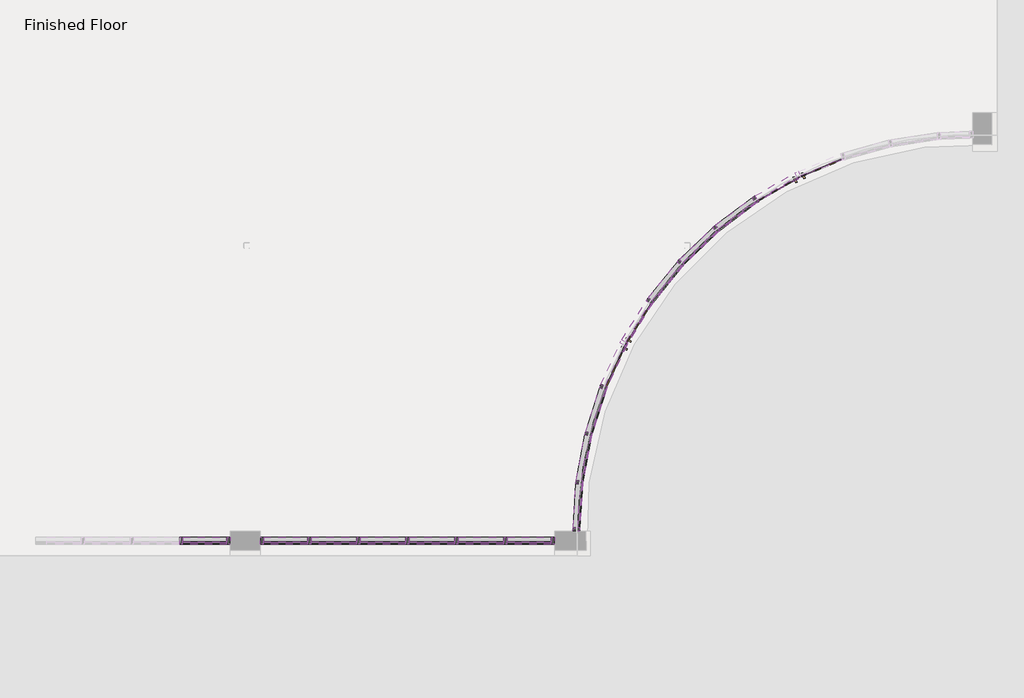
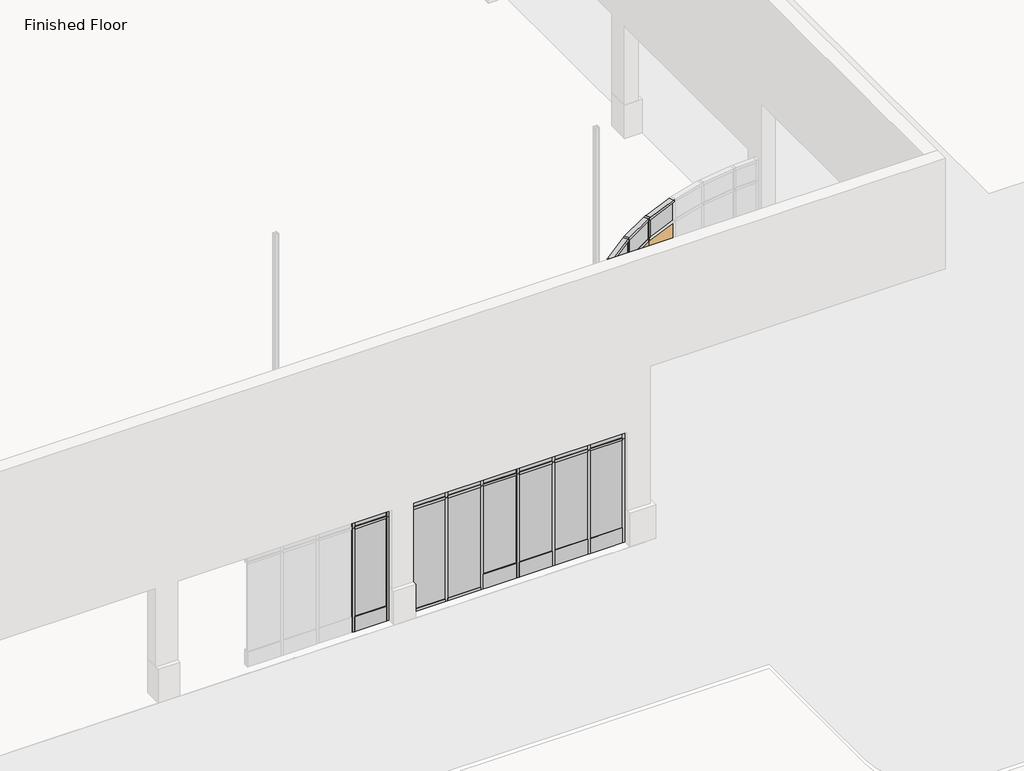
# One storey, part 3 of 7: 81 members, 30 plates, 4 doors.
"""IFC4 building model written with IfcOpenShell, lengths in millimetres."""

from ifc_helpers import new_model, si_unit, origin, place, context, project, spatial, transform, mapped, element, save
from components import curtain_wall_sgl_glass_curtain_wall_sgl_glass_1c17b042, curtain_wall_sgl_glass_curtain_wall_sgl_glass_0d6a1b13, member_d2e7e466, member_7db1855a, member_a397ac22, member_d702d02f, member_57980dff, member_b5e65c95, member_069002c8, member_a75f139a, member_8a16213d, member_a608d019, member_830eb86c, member_c5eeba41, member_bfce15ef, member_c839a1ff, member_1fc1b455, member_c17f1be2, member_ad567e07, member_6ad7a984, member_7c546d85, member_6e77e263, rectangular_mullion_tall_mullion_dc5872ae, rectangular_mullion_tall_mullion_643de06f, system_panel_glazed_00e77426, system_panel_glazed_d5ca8191, system_panel_glazed_a343adf7, system_panel_glazed_9d8b6f53, system_panel_glazed_2d85ec54, system_panel_glazed_0eb5479c, system_panel_glazed_0c1d7574, system_panel_glazed_f449fc8c, system_panel_glazed_61942ae4, system_panel_glazed_9254fb36

model = new_model("IFC4")

# Units and contexts
model_context = context("Model", 3, world=origin())
ifc_project = project(units=[si_unit("LENGTHUNIT", "METRE", prefix="MILLI")], contexts=[model_context])

# Site, building, storey
site = spatial("IfcSite", under=ifc_project)
building = spatial("IfcBuilding", under=site)
storey = spatial("IfcBuildingStorey", under=building, Name="Finished Floor", Elevation=0.0)

# Doors
placement = place(None, origin())
curtain_wall_sgl_glass_curtain_wall_sgl_glass_shape = curtain_wall_sgl_glass_curtain_wall_sgl_glass_1c17b042(model_context)
element("IfcDoor", 1, ObjectType="Curtain Wall Sgl Glass : Curtain Wall Sgl Glass", at=placement, inside=storey, context=model_context, shape_type="MappedRepresentation", body=[
    mapped(curtain_wall_sgl_glass_curtain_wall_sgl_glass_shape, transform((12205.5770222, -10167.6142626, 0.0), x_axis=(0.5285884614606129, 0.8488782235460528, 0.0), y_axis=(-0.8488782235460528, 0.5285884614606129, 0.0), z_axis=(0.0, 0.0, 1.0))),
])
element("IfcDoor", 2, ObjectType="Curtain Wall Sgl Glass : Curtain Wall Sgl Glass", at=placement, inside=storey, context=model_context, shape_type="MappedRepresentation", body=[
    mapped(curtain_wall_sgl_glass_curtain_wall_sgl_glass_shape, transform((15623.3358798, -7250.0903056, 0.0), x_axis=(0.9229809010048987, 0.38484575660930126, 0.0), y_axis=(-0.38484575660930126, 0.9229809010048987, 0.0), z_axis=(0.0, 0.0, 1.0))),
])
curtain_wall_sgl_glass_curtain_wall_sgl_glass_2_shape = curtain_wall_sgl_glass_curtain_wall_sgl_glass_0d6a1b13(model_context)
element("IfcDoor", 3, ObjectType="Curtain Wall Sgl Glass : Curtain Wall Sgl Glass", at=placement, inside=storey, context=model_context, shape_type="MappedRepresentation", body=[
    mapped(curtain_wall_sgl_glass_curtain_wall_sgl_glass_2_shape, transform((11787.050244, -10942.8089583, 0.0), x_axis=(-0.4197529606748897, -0.9076383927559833, 0.0), y_axis=(0.9076383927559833, -0.4197529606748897, 0.0), z_axis=(0.0, 0.0, 1.0))),
])
element("IfcDoor", 4, ObjectType="Curtain Wall Sgl Glass : Curtain Wall Sgl Glass", at=placement, inside=storey, context=model_context, shape_type="MappedRepresentation", body=[
    mapped(curtain_wall_sgl_glass_curtain_wall_sgl_glass_2_shape, transform((14832.7491415, -7638.7599462, 0.0), x_axis=(-0.8684126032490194, -0.4958422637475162, 0.0), y_axis=(0.4958422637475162, -0.8684126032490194, 0.0), z_axis=(0.0, 0.0, 1.0))),
])

# Members
member_shape = member_d2e7e466(model_context)
element("IfcMember", 5, ObjectType="Rectangular Mullion : 2.5\" x 5\" rectangular", at=placement, inside=storey, context=model_context, shape_type="MappedRepresentation", body=[
    mapped(member_shape, transform((8881.2647279, -14230.7188057, 3048.0), x_axis=(0.0, 0.0, 1.0), y_axis=(0.0, 1.0, 0.0), z_axis=(-1.0, 0.0, 0.0))),
])
element("IfcMember", 6, ObjectType="Rectangular Mullion : 2.5\" x 5\" rectangular", at=placement, inside=storey, context=model_context, shape_type="MappedRepresentation", body=[
    mapped(member_shape, transform((7966.8647279, -14230.7188057, 3048.0), x_axis=(0.0, 0.0, 1.0), y_axis=(0.0, 1.0, 0.0), z_axis=(-1.0, 0.0, 0.0))),
])
element("IfcMember", 7, ObjectType="Rectangular Mullion : 2.5\" x 5\" rectangular", at=placement, inside=storey, context=model_context, shape_type="MappedRepresentation", body=[
    mapped(member_shape, transform((7052.4647279, -14230.7188057, 3048.0), x_axis=(0.0, 0.0, 1.0), y_axis=(0.0, 1.0, 0.0), z_axis=(-1.0, 0.0, 0.0))),
])
element("IfcMember", 8, ObjectType="Rectangular Mullion : 2.5\" x 5\" rectangular", at=placement, inside=storey, context=model_context, shape_type="MappedRepresentation", body=[
    mapped(member_shape, transform((6138.0647279, -14230.7188057, 3048.0), x_axis=(0.0, 0.0, 1.0), y_axis=(0.0, 1.0, 0.0), z_axis=(-1.0, 0.0, 0.0))),
])
member_2_shape = member_7db1855a(model_context)
element("IfcMember", 9, ObjectType="Rectangular Mullion : 2.5\" x 5\" rectangular", at=placement, inside=storey, context=model_context, shape_type="MappedRepresentation", body=[
    mapped(member_2_shape, transform((8881.2647279, -14230.7188057, 2813.05), x_axis=(0.0, 0.0, 1.0), y_axis=(0.0, 1.0, 0.0), z_axis=(-1.0, 0.0, 0.0))),
])
element("IfcMember", 10, ObjectType="Rectangular Mullion : 2.5\" x 5\" rectangular", at=placement, inside=storey, context=model_context, shape_type="MappedRepresentation", body=[
    mapped(member_2_shape, transform((7966.8647279, -14230.7188057, 2813.05), x_axis=(0.0, 0.0, 1.0), y_axis=(0.0, 1.0, 0.0), z_axis=(-1.0, 0.0, 0.0))),
])
element("IfcMember", 11, ObjectType="Rectangular Mullion : 2.5\" x 5\" rectangular", at=placement, inside=storey, context=model_context, shape_type="MappedRepresentation", body=[
    mapped(member_2_shape, transform((7052.4647279, -14230.7188057, 2813.05), x_axis=(0.0, 0.0, 1.0), y_axis=(0.0, 1.0, 0.0), z_axis=(-1.0, 0.0, 0.0))),
])
element("IfcMember", 12, ObjectType="Rectangular Mullion : 2.5\" x 5\" rectangular", at=placement, inside=storey, context=model_context, shape_type="MappedRepresentation", body=[
    mapped(member_2_shape, transform((6138.0647279, -14230.7188057, 2813.05), x_axis=(0.0, 0.0, 1.0), y_axis=(0.0, 1.0, 0.0), z_axis=(-1.0, 0.0, 0.0))),
])
element("IfcMember", 13, ObjectType="Rectangular Mullion : 2.5\" x 5\" rectangular", at=placement, inside=storey, context=model_context, shape_type="MappedRepresentation", body=[
    mapped(member_shape, transform((6988.9647279, -14230.7188057, 0.0), x_axis=(0.0, 0.0, -1.0), y_axis=(0.0, 1.0, 0.0), z_axis=(1.0, 0.0, 0.0))),
])
member_3_shape = member_a397ac22(model_context)
element("IfcMember", 14, ObjectType="Rectangular Mullion : 2.5\" x 5\" rectangular", at=placement, inside=storey, context=model_context, shape_type="MappedRepresentation", body=[
    mapped(member_3_shape, transform((11304.1839181, -12274.3728565, 3048.0), x_axis=(0.0, 0.0, 1.0), y_axis=(0.9828172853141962, -0.18458110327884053, 0.0), z_axis=(0.18458110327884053, 0.9828172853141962, 0.0))),
])
element("IfcMember", 15, ObjectType="Rectangular Mullion : 2.5\" x 5\" rectangular", at=placement, inside=storey, context=model_context, shape_type="MappedRepresentation", body=[
    mapped(member_3_shape, transform((11578.8078606, -11402.4322971, 3048.0), x_axis=(0.0, 0.0, 1.0), y_axis=(0.9525135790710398, -0.3044961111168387, 0.0), z_axis=(0.3044961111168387, 0.9525135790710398, 0.0))),
])
element("IfcMember", 16, ObjectType="Rectangular Mullion : 2.5\" x 5\" rectangular", at=placement, inside=storey, context=model_context, shape_type="MappedRepresentation", body=[
    mapped(member_3_shape, transform((13011.1238909, -9080.0956549, 3048.0), x_axis=(0.0, 0.0, 1.0), y_axis=(0.7771319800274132, -0.6293376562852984, 0.0), z_axis=(0.6293376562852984, 0.7771319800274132, 0.0))),
])
element("IfcMember", 17, ObjectType="Rectangular Mullion : 2.5\" x 5\" rectangular", at=placement, inside=storey, context=model_context, shape_type="MappedRepresentation", body=[
    mapped(member_3_shape, transform((13667.0187553, -8443.3063838, 3048.0), x_axis=(0.0, 0.0, 1.0), y_axis=(0.6934972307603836, -0.7204592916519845, 0.0), z_axis=(0.7204592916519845, 0.6934972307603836, 0.0))),
])
element("IfcMember", 18, ObjectType="Rectangular Mullion : 2.5\" x 5\" rectangular", at=placement, inside=storey, context=model_context, shape_type="MappedRepresentation", body=[
    mapped(member_3_shape, transform((14396.5070884, -7892.356821, 3048.0), x_axis=(0.0, 0.0, 1.0), y_axis=(0.5992534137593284, -0.8005593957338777, 0.0), z_axis=(0.8005593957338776, 0.5992534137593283, 0.0))),
])
element("IfcMember", 19, ObjectType="Rectangular Mullion : 2.5\" x 5\" rectangular", at=placement, inside=storey, context=model_context, shape_type="MappedRepresentation", body=[
    mapped(member_3_shape, transform((11147.1238574, -13110.6520846, 0.0), x_axis=(0.0, 0.0, -1.0), y_axis=(0.9828172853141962, -0.1845811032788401, 0.0), z_axis=(-0.1845811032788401, -0.9828172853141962, 0.0))),
])
element("IfcMember", 20, ObjectType="Rectangular Mullion : 2.5\" x 5\" rectangular", at=placement, inside=storey, context=model_context, shape_type="MappedRepresentation", body=[
    mapped(member_3_shape, transform((11319.7121197, -12212.9261015, 0.0), x_axis=(0.0, 0.0, -1.0), y_axis=(0.9525135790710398, -0.3044961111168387, 0.0), z_axis=(-0.3044961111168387, -0.9525135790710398, 0.0))),
])
element("IfcMember", 21, ObjectType="Rectangular Mullion : 2.5\" x 5\" rectangular", at=placement, inside=storey, context=model_context, shape_type="MappedRepresentation", body=[
    mapped(member_3_shape, transform((12475.6204792, -9741.3572567, 0.0), x_axis=(0.0, 0.0, -1.0), y_axis=(0.7771319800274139, -0.6293376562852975, 0.0), z_axis=(-0.6293376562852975, -0.7771319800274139, 0.0))),
])
element("IfcMember", 22, ObjectType="Rectangular Mullion : 2.5\" x 5\" rectangular", at=placement, inside=storey, context=model_context, shape_type="MappedRepresentation", body=[
    mapped(member_3_shape, transform((13053.979944, -9033.4031774, 0.0), x_axis=(0.0, 0.0, -1.0), y_axis=(0.6934972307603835, -0.7204592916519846, 0.0), z_axis=(-0.7204592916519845, -0.6934972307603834, 0.0))),
])
element("IfcMember", 23, ObjectType="Rectangular Mullion : 2.5\" x 5\" rectangular", at=placement, inside=storey, context=model_context, shape_type="MappedRepresentation", body=[
    mapped(member_3_shape, transform((13715.3110986, -8402.2615508, 0.0), x_axis=(0.0, 0.0, -1.0), y_axis=(0.5992534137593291, -0.8005593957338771, 0.0), z_axis=(-0.8005593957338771, -0.5992534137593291, 0.0))),
])
member_4_shape = member_d702d02f(model_context)
element("IfcMember", 24, ObjectType="Rectangular Mullion : 2.5\" x 5\" rectangular", at=placement, inside=storey, context=model_context, shape_type="MappedRepresentation", body=[
    mapped(member_4_shape, transform((11304.1839181, -12274.3728565, 2470.15), x_axis=(0.0, 0.0, 1.0), y_axis=(0.9828172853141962, -0.18458110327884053, 0.0), z_axis=(0.18458110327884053, 0.9828172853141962, 0.0))),
])
element("IfcMember", 25, ObjectType="Rectangular Mullion : 2.5\" x 5\" rectangular", at=placement, inside=storey, context=model_context, shape_type="MappedRepresentation", body=[
    mapped(member_4_shape, transform((11578.8078606, -11402.4322971, 2470.15), x_axis=(0.0, 0.0, 1.0), y_axis=(0.9525135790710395, -0.3044961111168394, 0.0), z_axis=(0.30449611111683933, 0.9525135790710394, 0.0))),
])
element("IfcMember", 26, ObjectType="Rectangular Mullion : 2.5\" x 5\" rectangular", at=placement, inside=storey, context=model_context, shape_type="MappedRepresentation", body=[
    mapped(member_4_shape, transform((13011.1238909, -9080.0956549, 2470.15), x_axis=(0.0, 0.0, 1.0), y_axis=(0.7771319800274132, -0.6293376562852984, 0.0), z_axis=(0.6293376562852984, 0.7771319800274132, 0.0))),
])
element("IfcMember", 27, ObjectType="Rectangular Mullion : 2.5\" x 5\" rectangular", at=placement, inside=storey, context=model_context, shape_type="MappedRepresentation", body=[
    mapped(member_4_shape, transform((13667.0187553, -8443.3063838, 2470.15), x_axis=(0.0, 0.0, 1.0), y_axis=(0.6934972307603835, -0.7204592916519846, 0.0), z_axis=(0.7204592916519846, 0.6934972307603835, 0.0))),
])
element("IfcMember", 28, ObjectType="Rectangular Mullion : 2.5\" x 5\" rectangular", at=placement, inside=storey, context=model_context, shape_type="MappedRepresentation", body=[
    mapped(member_4_shape, transform((14396.5070884, -7892.356821, 2470.15), x_axis=(0.0, 0.0, 1.0), y_axis=(0.5992534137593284, -0.8005593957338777, 0.0), z_axis=(0.8005593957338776, 0.5992534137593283, 0.0))),
])
member_5_shape = member_57980dff(model_context)
element("IfcMember", 29, ObjectType="Rectangular Mullion : 2.5\" x 5\" rectangular", at=placement, inside=storey, context=model_context, shape_type="MappedRepresentation", body=[
    mapped(member_5_shape, transform((11141.2634073, -13141.8565334, 0.0), x_axis=(0.12344803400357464, 0.9923510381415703, 0.0), y_axis=(0.9923510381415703, -0.12344803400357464, 0.0), z_axis=(0.0, 0.0, -1.0))),
])
element("IfcMember", 30, ObjectType="Rectangular Mullion : 2.5\" x 5\" rectangular", at=placement, inside=storey, context=model_context, shape_type="MappedRepresentation", body=[
    mapped(member_5_shape, transform((11310.0443682, -12243.1684077, 0.0), x_axis=(0.24500756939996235, 0.9695211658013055, 0.0), y_axis=(0.9695211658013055, -0.24500756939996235, 0.0), z_axis=(0.0, 0.0, -1.0))),
])
element("IfcMember", 31, ObjectType="Rectangular Mullion : 2.5\" x 5\" rectangular", at=placement, inside=storey, context=model_context, shape_type="MappedRepresentation", body=[
    mapped(member_5_shape, transform((11588.4756122, -11372.189991, 0.0), x_axis=(0.3628189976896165, 0.9318596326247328, 0.0), y_axis=(0.9318596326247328, -0.3628189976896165, 0.0), z_axis=(0.0, 0.0, -1.0))),
])
element("IfcMember", 32, ObjectType="Rectangular Mullion : 2.5\" x 5\" rectangular", at=placement, inside=storey, context=model_context, shape_type="MappedRepresentation", body=[
    mapped(member_5_shape, transform((12455.6390086, -9766.031197, 0.0), x_axis=(0.5800733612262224, 0.8145642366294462, 0.0), y_axis=(0.8145642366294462, -0.5800733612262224, 0.0), z_axis=(0.0, 0.0, -1.0))),
])
element("IfcMember", 33, ObjectType="Rectangular Mullion : 2.5\" x 5\" rectangular", at=placement, inside=storey, context=model_context, shape_type="MappedRepresentation", body=[
    mapped(member_5_shape, transform((13031.1053615, -9055.4217145, 0.0), x_axis=(0.6761927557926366, 0.7367247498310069, 0.0), y_axis=(0.7367247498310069, -0.6761927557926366, 0.0), z_axis=(0.0, 0.0, -1.0))),
])
element("IfcMember", 34, ObjectType="Rectangular Mullion : 2.5\" x 5\" rectangular", at=placement, inside=storey, context=model_context, shape_type="MappedRepresentation", body=[
    mapped(member_5_shape, transform((13689.8933378, -8421.2878467, 0.0), x_axis=(0.7619678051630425, 0.6476149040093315, 0.0), y_axis=(0.6476149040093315, -0.7619678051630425, 0.0), z_axis=(0.0, 0.0, -1.0))),
])
element("IfcMember", 35, ObjectType="Rectangular Mullion : 2.5\" x 5\" rectangular", at=placement, inside=storey, context=model_context, shape_type="MappedRepresentation", body=[
    mapped(member_5_shape, transform((14421.9248492, -7873.3305251, 0.0), x_axis=(0.8360863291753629, 0.5485978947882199, 0.0), y_axis=(0.5485978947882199, -0.8360863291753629, 0.0), z_axis=(0.0, 0.0, -1.0))),
])
member_6_shape = member_b5e65c95(model_context)
element("IfcMember", 36, ObjectType="Rectangular Mullion : 2.5\" x 5\" rectangular", at=placement, inside=storey, context=model_context, shape_type="MappedRepresentation", body=[
    mapped(member_6_shape, transform((11141.2634073, -13141.8565334, 2470.15), x_axis=(0.12344803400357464, 0.9923510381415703, 0.0), y_axis=(0.9923510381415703, -0.12344803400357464, 0.0), z_axis=(0.0, 0.0, -1.0))),
])
element("IfcMember", 37, ObjectType="Rectangular Mullion : 2.5\" x 5\" rectangular", at=placement, inside=storey, context=model_context, shape_type="MappedRepresentation", body=[
    mapped(member_6_shape, transform((11310.0443682, -12243.1684077, 2470.15), x_axis=(0.2450075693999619, 0.9695211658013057, 0.0), y_axis=(0.9695211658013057, -0.2450075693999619, 0.0), z_axis=(0.0, 0.0, -1.0))),
])
element("IfcMember", 38, ObjectType="Rectangular Mullion : 2.5\" x 5\" rectangular", at=placement, inside=storey, context=model_context, shape_type="MappedRepresentation", body=[
    mapped(member_6_shape, transform((11588.4756122, -11372.189991, 2470.15), x_axis=(0.3628189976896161, 0.931859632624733, 0.0), y_axis=(0.931859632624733, -0.3628189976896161, 0.0), z_axis=(0.0, 0.0, -1.0))),
])
element("IfcMember", 39, ObjectType="Rectangular Mullion : 2.5\" x 5\" rectangular", at=placement, inside=storey, context=model_context, shape_type="MappedRepresentation", body=[
    mapped(member_6_shape, transform((12455.6390086, -9766.031197, 2470.15), x_axis=(0.5800733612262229, 0.814564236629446, 0.0), y_axis=(0.814564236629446, -0.5800733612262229, 0.0), z_axis=(0.0, 0.0, -1.0))),
])
element("IfcMember", 40, ObjectType="Rectangular Mullion : 2.5\" x 5\" rectangular", at=placement, inside=storey, context=model_context, shape_type="MappedRepresentation", body=[
    mapped(member_6_shape, transform((13031.1053615, -9055.4217145, 2470.15), x_axis=(0.6761927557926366, 0.7367247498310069, 0.0), y_axis=(0.7367247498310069, -0.6761927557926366, 0.0), z_axis=(0.0, 0.0, -1.0))),
])
element("IfcMember", 41, ObjectType="Rectangular Mullion : 2.5\" x 5\" rectangular", at=placement, inside=storey, context=model_context, shape_type="MappedRepresentation", body=[
    mapped(member_6_shape, transform((13689.8933378, -8421.2878467, 2470.15), x_axis=(0.7619678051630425, 0.6476149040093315, 0.0), y_axis=(0.6476149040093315, -0.7619678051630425, 0.0), z_axis=(0.0, 0.0, -1.0))),
])
element("IfcMember", 42, ObjectType="Rectangular Mullion : 2.5\" x 5\" rectangular", at=placement, inside=storey, context=model_context, shape_type="MappedRepresentation", body=[
    mapped(member_6_shape, transform((14421.9248492, -7873.3305251, 2470.15), x_axis=(0.8360863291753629, 0.5485978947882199, 0.0), y_axis=(0.5485978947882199, -0.8360863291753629, 0.0), z_axis=(0.0, 0.0, -1.0))),
])
member_7_shape = member_069002c8(model_context)
element("IfcMember", 43, ObjectType="Rectangular Mullion : 2.5\" x 5\" rectangular", at=placement, inside=storey, context=model_context, shape_type="MappedRepresentation", body=[
    mapped(member_7_shape, transform((9763.9147279, -14230.7188057, 0.0), x_axis=(-1.0, 0.0, 0.0), y_axis=(0.0, 1.0, 0.0), z_axis=(0.0, 0.0, -1.0))),
])
element("IfcMember", 44, ObjectType="Rectangular Mullion : 2.5\" x 5\" rectangular", at=placement, inside=storey, context=model_context, shape_type="MappedRepresentation", body=[
    mapped(member_7_shape, transform((8849.5147279, -14230.7188057, 0.0), x_axis=(-1.0, 0.0, 0.0), y_axis=(0.0, 1.0, 0.0), z_axis=(0.0, 0.0, -1.0))),
])
element("IfcMember", 45, ObjectType="Rectangular Mullion : 2.5\" x 5\" rectangular", at=placement, inside=storey, context=model_context, shape_type="MappedRepresentation", body=[
    mapped(member_7_shape, transform((7935.1147279, -14230.7188057, 0.0), x_axis=(-1.0, 0.0, 0.0), y_axis=(0.0, 1.0, 0.0), z_axis=(0.0, 0.0, -1.0))),
])
element("IfcMember", 46, ObjectType="Rectangular Mullion : 2.5\" x 5\" rectangular", at=placement, inside=storey, context=model_context, shape_type="MappedRepresentation", body=[
    mapped(member_7_shape, transform((3718.7147279, -14230.7188057, 0.0), x_axis=(-1.0, 0.0, 0.0), y_axis=(0.0, 1.0, 0.0), z_axis=(0.0, 0.0, -1.0))),
])
element("IfcMember", 47, ObjectType="Rectangular Mullion : 2.5\" x 5\" rectangular", at=placement, inside=storey, context=model_context, shape_type="MappedRepresentation", body=[
    mapped(member_7_shape, transform((7020.7147279, -14230.7188057, 0.0), x_axis=(-1.0, 0.0, 0.0), y_axis=(0.0, 1.0, 0.0), z_axis=(0.0, 0.0, -1.0))),
])
element("IfcMember", 48, ObjectType="Rectangular Mullion : 2.5\" x 5\" rectangular", at=placement, inside=storey, context=model_context, shape_type="MappedRepresentation", body=[
    mapped(member_7_shape, transform((6106.3147279, -14230.7188057, 0.0), x_axis=(-1.0, 0.0, 0.0), y_axis=(0.0, 1.0, 0.0), z_axis=(0.0, 0.0, -1.0))),
])
member_8_shape = member_a75f139a(model_context)
element("IfcMember", 49, ObjectType="Rectangular Mullion : 2.5\" x 5\" rectangular", at=placement, inside=storey, context=model_context, shape_type="MappedRepresentation", body=[
    mapped(member_8_shape, transform((9763.9147279, -14230.7188057, 2813.05), x_axis=(-1.0, 0.0, 0.0), y_axis=(0.0, 1.0, 0.0), z_axis=(0.0, 0.0, -1.0))),
])
element("IfcMember", 50, ObjectType="Rectangular Mullion : 2.5\" x 5\" rectangular", at=placement, inside=storey, context=model_context, shape_type="MappedRepresentation", body=[
    mapped(member_8_shape, transform((8849.5147279, -14230.7188057, 2813.05), x_axis=(-1.0, 0.0, 0.0), y_axis=(0.0, 1.0, 0.0), z_axis=(0.0, 0.0, -1.0))),
])
element("IfcMember", 51, ObjectType="Rectangular Mullion : 2.5\" x 5\" rectangular", at=placement, inside=storey, context=model_context, shape_type="MappedRepresentation", body=[
    mapped(member_8_shape, transform((7935.1147279, -14230.7188057, 2813.05), x_axis=(-1.0, 0.0, 0.0), y_axis=(0.0, 1.0, 0.0), z_axis=(0.0, 0.0, -1.0))),
])
element("IfcMember", 52, ObjectType="Rectangular Mullion : 2.5\" x 5\" rectangular", at=placement, inside=storey, context=model_context, shape_type="MappedRepresentation", body=[
    mapped(member_8_shape, transform((3718.7147279, -14230.7188057, 2813.05), x_axis=(-1.0, 0.0, 0.0), y_axis=(0.0, 1.0, 0.0), z_axis=(0.0, 0.0, -1.0))),
])
element("IfcMember", 53, ObjectType="Rectangular Mullion : 2.5\" x 5\" rectangular", at=placement, inside=storey, context=model_context, shape_type="MappedRepresentation", body=[
    mapped(member_8_shape, transform((7020.7147279, -14230.7188057, 2813.05), x_axis=(-1.0, 0.0, 0.0), y_axis=(0.0, 1.0, 0.0), z_axis=(0.0, 0.0, -1.0))),
])
element("IfcMember", 54, ObjectType="Rectangular Mullion : 2.5\" x 5\" rectangular", at=placement, inside=storey, context=model_context, shape_type="MappedRepresentation", body=[
    mapped(member_8_shape, transform((6106.3147279, -14230.7188057, 2813.05), x_axis=(-1.0, 0.0, 0.0), y_axis=(0.0, 1.0, 0.0), z_axis=(0.0, 0.0, -1.0))),
])
member_9_shape = member_8a16213d(model_context)
element("IfcMember", 55, ObjectType="Rectangular Mullion : 2.5\" x 5\" rectangular", at=placement, inside=storey, context=model_context, shape_type="MappedRepresentation", body=[
    mapped(member_9_shape, transform((5191.9147279, -14230.7188057, 0.0), x_axis=(-1.0, 0.0, 0.0), y_axis=(0.0, 1.0, 0.0), z_axis=(0.0, 0.0, -1.0))),
])
member_10_shape = member_a608d019(model_context)
element("IfcMember", 56, ObjectType="Rectangular Mullion : 2.5\" x 5\" rectangular", at=placement, inside=storey, context=model_context, shape_type="MappedRepresentation", body=[
    mapped(member_10_shape, transform((5191.9147279, -14230.7188057, 2813.05), x_axis=(-1.0, 0.0, 0.0), y_axis=(0.0, 1.0, 0.0), z_axis=(0.0, 0.0, -1.0))),
])
element("IfcMember", 57, ObjectType="Rectangular Mullion : 2.5\" x 5\" rectangular", at=placement, inside=storey, context=model_context, shape_type="MappedRepresentation", body=[
    mapped(member_10_shape, transform((10678.3147279, -14230.7188057, 3048.0), x_axis=(1.0, 0.0, 0.0), y_axis=(0.0, 1.0, 0.0), z_axis=(0.0, 0.0, 1.0))),
])
element("IfcMember", 58, ObjectType="Rectangular Mullion : 2.5\" x 5\" rectangular", at=placement, inside=storey, context=model_context, shape_type="MappedRepresentation", body=[
    mapped(member_10_shape, transform((4633.1147279, -14230.7188057, 3048.0), x_axis=(1.0, 0.0, 0.0), y_axis=(0.0, 1.0, 0.0), z_axis=(0.0, 0.0, 1.0))),
])
element("IfcMember", 59, ObjectType="Rectangular Mullion : 2.5\" x 5\" rectangular", at=placement, inside=storey, context=model_context, shape_type="MappedRepresentation", body=[
    mapped(member_9_shape, transform((10678.3147279, -14230.7188057, 2813.05), x_axis=(1.0, 0.0, 0.0), y_axis=(0.0, 1.0, 0.0), z_axis=(0.0, 0.0, 1.0))),
])
element("IfcMember", 60, ObjectType="Rectangular Mullion : 2.5\" x 5\" rectangular", at=placement, inside=storey, context=model_context, shape_type="MappedRepresentation", body=[
    mapped(member_9_shape, transform((4633.1147279, -14230.7188057, 2813.05), x_axis=(1.0, 0.0, 0.0), y_axis=(0.0, 1.0, 0.0), z_axis=(0.0, 0.0, 1.0))),
])
member_11_shape = member_830eb86c(model_context)
element("IfcMember", 61, ObjectType="Rectangular Mullion : 2.5\" x 5\" rectangular", at=placement, inside=storey, context=model_context, shape_type="MappedRepresentation", body=[
    mapped(member_11_shape, transform((11084.7147279, -14054.5063057, 3048.0), x_axis=(-0.06184238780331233, -0.9980859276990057, 0.0), y_axis=(0.9980859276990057, -0.06184238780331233, 0.0), z_axis=(0.0, 0.0, 1.0))),
])
member_12_shape = member_c5eeba41(model_context)
element("IfcMember", 62, ObjectType="Rectangular Mullion : 2.5\" x 5\" rectangular", at=placement, inside=storey, context=model_context, shape_type="MappedRepresentation", body=[
    mapped(member_12_shape, transform((11084.7147279, -14054.5063057, 2470.15), x_axis=(-0.061842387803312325, -0.9980859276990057, 0.0), y_axis=(0.9980859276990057, -0.061842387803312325, 0.0), z_axis=(0.0, 0.0, 1.0))),
])
member_13_shape = member_bfce15ef(model_context)
element("IfcMember", 63, ObjectType="Rectangular Mullion : 2.5\" x 5\" rectangular", at=placement, inside=storey, context=model_context, shape_type="MappedRepresentation", body=[
    mapped(member_13_shape, transform((11088.6417196, -13991.1278492, 0.0), x_axis=(0.0, 0.0, -1.0), y_axis=(0.9980859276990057, -0.06184238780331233, 0.0), z_axis=(-0.06184238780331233, -0.9980859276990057, 0.0))),
])
member_14_shape = member_c839a1ff(model_context)
element("IfcMember", 64, ObjectType="Rectangular Mullion : 2.5\" x 5\" rectangular", at=placement, inside=storey, context=model_context, shape_type="MappedRepresentation", body=[
    mapped(member_14_shape, transform((11139.2999115, -13173.5457616, 3048.0), x_axis=(0.0, 0.0, 1.0), y_axis=(0.9980859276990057, -0.06184238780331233, 0.0), z_axis=(0.06184238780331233, 0.9980859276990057, 0.0))),
])
member_15_shape = member_1fc1b455(model_context)
element("IfcMember", 65, ObjectType="Rectangular Mullion : 2.5\" x 5\" rectangular", at=placement, inside=storey, context=model_context, shape_type="MappedRepresentation", body=[
    mapped(member_15_shape, transform((11139.2999115, -13173.5457616, 2470.15), x_axis=(0.0, 0.0, 1.0), y_axis=(0.9980859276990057, -0.06184238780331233, 0.0), z_axis=(0.06184238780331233, 0.9980859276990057, 0.0))),
])
member_16_shape = member_c17f1be2(model_context)
element("IfcMember", 66, ObjectType="Rectangular Mullion : 2.5\" x 5\" rectangular", at=placement, inside=storey, context=model_context, shape_type="MappedRepresentation", body=[
    mapped(member_16_shape, transform((5255.4147279, -14230.7188057, 3048.0), x_axis=(0.0, 0.0, 1.0), y_axis=(0.0, 1.0, 0.0), z_axis=(-1.0, 0.0, 0.0))),
])
element("IfcMember", 67, ObjectType="Rectangular Mullion : 2.5\" x 5\" rectangular", at=placement, inside=storey, context=model_context, shape_type="MappedRepresentation", body=[
    mapped(member_16_shape, transform((9795.6647279, -14230.7188057, 3048.0), x_axis=(0.0, 0.0, 1.0), y_axis=(0.0, 1.0, 0.0), z_axis=(-1.0, 0.0, 0.0))),
])
member_17_shape = member_ad567e07(model_context)
element("IfcMember", 68, ObjectType="Rectangular Mullion : 2.5\" x 5\" rectangular", at=placement, inside=storey, context=model_context, shape_type="MappedRepresentation", body=[
    mapped(member_17_shape, transform((9795.6647279, -14230.7188057, 2813.05), x_axis=(0.0, 0.0, 1.0), y_axis=(0.0, 1.0, 0.0), z_axis=(-1.0, 0.0, 0.0))),
])
element("IfcMember", 69, ObjectType="Rectangular Mullion : 2.5\" x 5\" rectangular", at=placement, inside=storey, context=model_context, shape_type="MappedRepresentation", body=[
    mapped(member_17_shape, transform((3750.4647279, -14230.7188057, 2813.05), x_axis=(0.0, 0.0, 1.0), y_axis=(0.0, 1.0, 0.0), z_axis=(-1.0, 0.0, 0.0))),
])
element("IfcMember", 70, ObjectType="Rectangular Mullion : 2.5\" x 5\" rectangular", at=placement, inside=storey, context=model_context, shape_type="MappedRepresentation", body=[
    mapped(member_17_shape, transform((5255.4147279, -14230.7188057, 2813.05), x_axis=(0.0, 0.0, 1.0), y_axis=(0.0, 1.0, 0.0), z_axis=(-1.0, 0.0, 0.0))),
])
element("IfcMember", 71, ObjectType="Rectangular Mullion : 2.5\" x 5\" rectangular", at=placement, inside=storey, context=model_context, shape_type="MappedRepresentation", body=[
    mapped(member_16_shape, transform((6074.5647279, -14230.7188057, 0.0), x_axis=(0.0, 0.0, -1.0), y_axis=(0.0, 1.0, 0.0), z_axis=(1.0, 0.0, 0.0))),
])
member_18_shape = member_6ad7a984(model_context)
element("IfcMember", 72, ObjectType="Rectangular Mullion : 2.5\" x 5\" rectangular", at=placement, inside=storey, context=model_context, shape_type="MappedRepresentation", body=[
    mapped(member_18_shape, transform((11958.9705629, -10571.0629636, 2470.15), x_axis=(0.0, 0.0, 1.0), y_axis=(0.9076383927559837, -0.41975296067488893, 0.0), z_axis=(0.41975296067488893, 0.9076383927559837, 0.0))),
])
element("IfcMember", 73, ObjectType="Rectangular Mullion : 2.5\" x 5\" rectangular", at=placement, inside=storey, context=model_context, shape_type="MappedRepresentation", body=[
    mapped(member_18_shape, transform((15188.4292335, -7435.675351, 2470.15), x_axis=(0.0, 0.0, 1.0), y_axis=(0.49584226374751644, -0.8684126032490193, 0.0), z_axis=(0.8684126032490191, 0.4958422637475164, 0.0))),
])
member_19_shape = member_7c546d85(model_context)
element("IfcMember", 74, ObjectType="Rectangular Mullion : 2.5\" x 5\" rectangular", at=placement, inside=storey, context=model_context, shape_type="MappedRepresentation", body=[
    mapped(member_19_shape, transform((12438.8563249, -9792.9830806, 2470.15), x_axis=(0.0, 0.0, 1.0), y_axis=(0.8488782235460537, -0.5285884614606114, 0.0), z_axis=(0.5285884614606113, 0.8488782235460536, 0.0))),
])
member_20_shape = member_6e77e263(model_context)
element("IfcMember", 75, ObjectType="Rectangular Mullion : 2.5\" x 5\" rectangular", at=placement, inside=storey, context=model_context, shape_type="MappedRepresentation", body=[
    mapped(member_20_shape, transform((11972.2977194, -10542.2454446, 2438.4), x_axis=(0.4750800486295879, 0.8799425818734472, 0.0), y_axis=(0.8799425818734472, -0.4750800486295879, 0.0), z_axis=(0.0, 0.0, -1.0))),
])
element("IfcMember", 76, ObjectType="Rectangular Mullion : 2.5\" x 5\" rectangular", at=placement, inside=storey, context=model_context, shape_type="MappedRepresentation", body=[
    mapped(member_20_shape, transform((15216.0013336, -7419.9323592, 2438.4), x_axis=(0.8974144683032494, 0.4411884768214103, 0.0), y_axis=(0.4411884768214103, -0.8974144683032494, 0.0), z_axis=(0.0, 0.0, -1.0))),
])
element("IfcMember", 77, ObjectType="Rectangular Mullion : 2.5\" x 5\" rectangular", at=placement, inside=storey, context=model_context, shape_type="MappedRepresentation", body=[
    mapped(member_3_shape, transform((11958.9705629, -10571.0629636, 3048.0), x_axis=(0.0, 0.0, 1.0), y_axis=(0.9076383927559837, -0.4197529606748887, 0.0), z_axis=(0.4197529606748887, 0.9076383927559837, 0.0))),
])
element("IfcMember", 78, ObjectType="Rectangular Mullion : 2.5\" x 5\" rectangular", at=placement, inside=storey, context=model_context, shape_type="MappedRepresentation", body=[
    mapped(member_3_shape, transform((15188.4292335, -7435.675351, 3048.0), x_axis=(0.0, 0.0, 1.0), y_axis=(0.4958422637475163, -0.8684126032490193, 0.0), z_axis=(0.8684126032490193, 0.4958422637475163, 0.0))),
])
element("IfcMember", 79, ObjectType="Rectangular Mullion : 2.5\" x 5\" rectangular", at=placement, inside=storey, context=model_context, shape_type="MappedRepresentation", body=[
    mapped(member_3_shape, transform((12438.8563249, -9792.9830806, 3048.0), x_axis=(0.0, 0.0, 1.0), y_axis=(0.848878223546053, -0.5285884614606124, 0.0), z_axis=(0.5285884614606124, 0.848878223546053, 0.0))),
])
element("IfcMember", 80, ObjectType="Rectangular Mullion : 2.5\" x 5\" rectangular", at=placement, inside=storey, context=model_context, shape_type="MappedRepresentation", body=[
    mapped(member_3_shape, transform((16030.6704259, -7080.2482521, 3048.0), x_axis=(0.0, 0.0, 1.0), y_axis=(0.38484575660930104, -0.9229809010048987, 0.0), z_axis=(0.9229809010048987, 0.38484575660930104, 0.0))),
])
rectangular_mullion_tall_mullion_shape = rectangular_mullion_tall_mullion_dc5872ae(model_context)
element("IfcMember", 81, ObjectType="Rectangular Mullion : Tall Mullion", at=placement, inside=storey, context=model_context, shape_type="MappedRepresentation", body=[
    mapped(rectangular_mullion_tall_mullion_shape, transform((9732.1647279, -14230.7188057, 0.0), x_axis=(0.0, 0.0, -1.0), y_axis=(0.0, 1.0, 0.0), z_axis=(1.0, 0.0, 0.0))),
])
element("IfcMember", 82, ObjectType="Rectangular Mullion : Tall Mullion", at=placement, inside=storey, context=model_context, shape_type="MappedRepresentation", body=[
    mapped(rectangular_mullion_tall_mullion_shape, transform((8817.7647279, -14230.7188057, 0.0), x_axis=(0.0, 0.0, -1.0), y_axis=(0.0, 1.0, 0.0), z_axis=(1.0, 0.0, 0.0))),
])
element("IfcMember", 83, ObjectType="Rectangular Mullion : Tall Mullion", at=placement, inside=storey, context=model_context, shape_type="MappedRepresentation", body=[
    mapped(rectangular_mullion_tall_mullion_shape, transform((7903.3647279, -14230.7188057, 0.0), x_axis=(0.0, 0.0, -1.0), y_axis=(0.0, 1.0, 0.0), z_axis=(1.0, 0.0, 0.0))),
])
rectangular_mullion_tall_mullion_2_shape = rectangular_mullion_tall_mullion_643de06f(model_context)
element("IfcMember", 84, ObjectType="Rectangular Mullion : Tall Mullion", at=placement, inside=storey, context=model_context, shape_type="MappedRepresentation", body=[
    mapped(rectangular_mullion_tall_mullion_2_shape, transform((10614.8147279, -14230.7188057, 0.0), x_axis=(0.0, 0.0, -1.0), y_axis=(0.0, 1.0, 0.0), z_axis=(1.0, 0.0, 0.0))),
])
element("IfcMember", 85, ObjectType="Rectangular Mullion : Tall Mullion", at=placement, inside=storey, context=model_context, shape_type="MappedRepresentation", body=[
    mapped(rectangular_mullion_tall_mullion_2_shape, transform((4569.6147279, -14230.7188057, 0.0), x_axis=(0.0, 0.0, -1.0), y_axis=(0.0, 1.0, 0.0), z_axis=(1.0, 0.0, 0.0))),
])

# Plates
system_panel_glazed_shape = system_panel_glazed_00e77426(model_context)
element("IfcPlate", 86, ObjectType="System Panel : Glazed", at=placement, inside=storey, context=model_context, shape_type="MappedRepresentation", body=[
    mapped(system_panel_glazed_shape, transform((9306.7147279, -14230.7188057, 406.4), x_axis=(-1.0, 0.0, 0.0), y_axis=(0.0, -1.0, 0.0), z_axis=(0.0, 0.0, 1.0))),
])
element("IfcPlate", 87, ObjectType="System Panel : Glazed", at=placement, inside=storey, context=model_context, shape_type="MappedRepresentation", body=[
    mapped(system_panel_glazed_shape, transform((8392.3147279, -14230.7188057, 406.4), x_axis=(-1.0, 0.0, 0.0), y_axis=(0.0, -1.0, 0.0), z_axis=(0.0, 0.0, 1.0))),
])
element("IfcPlate", 88, ObjectType="System Panel : Glazed", at=placement, inside=storey, context=model_context, shape_type="MappedRepresentation", body=[
    mapped(system_panel_glazed_shape, transform((7477.9147279, -14230.7188057, 406.4), x_axis=(-1.0, 0.0, 0.0), y_axis=(0.0, -1.0, 0.0), z_axis=(0.0, 0.0, 1.0))),
])
system_panel_glazed_2_shape = system_panel_glazed_d5ca8191(model_context)
element("IfcPlate", 89, ObjectType="System Panel : Glazed", at=placement, inside=storey, context=model_context, shape_type="MappedRepresentation", body=[
    mapped(system_panel_glazed_2_shape, transform((9306.7147279, -14230.7188057, 2844.8), x_axis=(-1.0, 0.0, 0.0), y_axis=(0.0, -1.0, 0.0), z_axis=(0.0, 0.0, 1.0))),
])
element("IfcPlate", 90, ObjectType="System Panel : Glazed", at=placement, inside=storey, context=model_context, shape_type="MappedRepresentation", body=[
    mapped(system_panel_glazed_2_shape, transform((8392.3147279, -14230.7188057, 2844.8), x_axis=(-1.0, 0.0, 0.0), y_axis=(0.0, -1.0, 0.0), z_axis=(0.0, 0.0, 1.0))),
])
element("IfcPlate", 91, ObjectType="System Panel : Glazed", at=placement, inside=storey, context=model_context, shape_type="MappedRepresentation", body=[
    mapped(system_panel_glazed_2_shape, transform((7477.9147279, -14230.7188057, 2844.8), x_axis=(-1.0, 0.0, 0.0), y_axis=(0.0, -1.0, 0.0), z_axis=(0.0, 0.0, 1.0))),
])
element("IfcPlate", 92, ObjectType="System Panel : Glazed", at=placement, inside=storey, context=model_context, shape_type="MappedRepresentation", body=[
    mapped(system_panel_glazed_2_shape, transform((6563.5147279, -14230.7188057, 2844.8), x_axis=(-1.0, 0.0, 0.0), y_axis=(0.0, -1.0, 0.0), z_axis=(0.0, 0.0, 1.0))),
])
system_panel_glazed_3_shape = system_panel_glazed_a343adf7(model_context)
element("IfcPlate", 93, ObjectType="System Panel : Glazed", at=placement, inside=storey, context=model_context, shape_type="MappedRepresentation", body=[
    mapped(system_panel_glazed_3_shape, transform((11225.6538878, -12692.5124705, 63.5), x_axis=(0.1845811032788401, 0.9828172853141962, 0.0), y_axis=(-0.9828172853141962, 0.1845811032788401, 0.0), z_axis=(0.0, 0.0, 1.0))),
])
element("IfcPlate", 94, ObjectType="System Panel : Glazed", at=placement, inside=storey, context=model_context, shape_type="MappedRepresentation", body=[
    mapped(system_panel_glazed_3_shape, transform((11449.2599902, -11807.6791993, 63.5), x_axis=(0.3044961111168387, 0.9525135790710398, 0.0), y_axis=(-0.9525135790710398, 0.3044961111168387, 0.0), z_axis=(0.0, 0.0, 1.0))),
])
element("IfcPlate", 95, ObjectType="System Panel : Glazed", at=placement, inside=storey, context=model_context, shape_type="MappedRepresentation", body=[
    mapped(system_panel_glazed_3_shape, transform((12743.372185, -9410.7264558, 63.5), x_axis=(0.6293376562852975, 0.7771319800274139, 0.0), y_axis=(-0.7771319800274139, 0.6293376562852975, 0.0), z_axis=(0.0, 0.0, 1.0))),
])
element("IfcPlate", 96, ObjectType="System Panel : Glazed", at=placement, inside=storey, context=model_context, shape_type="MappedRepresentation", body=[
    mapped(system_panel_glazed_3_shape, transform((13360.4993496, -8738.3547806, 63.5), x_axis=(0.7204592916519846, 0.6934972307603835, 0.0), y_axis=(-0.6934972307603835, 0.7204592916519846, 0.0), z_axis=(0.0, 0.0, 1.0))),
])
element("IfcPlate", 97, ObjectType="System Panel : Glazed", at=placement, inside=storey, context=model_context, shape_type="MappedRepresentation", body=[
    mapped(system_panel_glazed_3_shape, transform((14055.9090935, -8147.3091859, 63.5), x_axis=(0.8005593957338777, 0.5992534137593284, 0.0), y_axis=(-0.5992534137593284, 0.8005593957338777, 0.0), z_axis=(0.0, 0.0, 1.0))),
])
system_panel_glazed_4_shape = system_panel_glazed_9d8b6f53(model_context)
element("IfcPlate", 98, ObjectType="System Panel : Glazed", at=placement, inside=storey, context=model_context, shape_type="MappedRepresentation", body=[
    mapped(system_panel_glazed_4_shape, transform((6563.5147279, -14230.7188057, 63.5), x_axis=(-1.0, 0.0, 0.0), y_axis=(0.0, -1.0, 0.0), z_axis=(0.0, 0.0, 1.0))),
])
system_panel_glazed_5_shape = system_panel_glazed_2d85ec54(model_context)
element("IfcPlate", 99, ObjectType="System Panel : Glazed", at=placement, inside=storey, context=model_context, shape_type="MappedRepresentation", body=[
    mapped(system_panel_glazed_5_shape, transform((11225.6538878, -12692.5124705, 2501.9), x_axis=(0.1845811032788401, 0.9828172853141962, 0.0), y_axis=(-0.9828172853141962, 0.1845811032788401, 0.0), z_axis=(0.0, 0.0, 1.0))),
])
element("IfcPlate", 100, ObjectType="System Panel : Glazed", at=placement, inside=storey, context=model_context, shape_type="MappedRepresentation", body=[
    mapped(system_panel_glazed_5_shape, transform((11449.2599902, -11807.6791993, 2501.9), x_axis=(0.3044961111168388, 0.9525135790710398, 0.0), y_axis=(-0.9525135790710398, 0.3044961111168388, 0.0), z_axis=(0.0, 0.0, 1.0))),
])
element("IfcPlate", 101, ObjectType="System Panel : Glazed", at=placement, inside=storey, context=model_context, shape_type="MappedRepresentation", body=[
    mapped(system_panel_glazed_5_shape, transform((11780.3866658, -10957.2177178, 2501.9), x_axis=(0.41975296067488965, 0.9076383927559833, 0.0), y_axis=(-0.9076383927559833, 0.41975296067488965, 0.0), z_axis=(0.0, 0.0, 1.0))),
])
element("IfcPlate", 102, ObjectType="System Panel : Glazed", at=placement, inside=storey, context=model_context, shape_type="MappedRepresentation", body=[
    mapped(system_panel_glazed_5_shape, transform((12213.968364, -10154.1383208, 2501.9), x_axis=(0.5285884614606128, 0.8488782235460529, 0.0), y_axis=(-0.8488782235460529, 0.5285884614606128, 0.0), z_axis=(0.0, 0.0, 1.0))),
])
element("IfcPlate", 103, ObjectType="System Panel : Glazed", at=placement, inside=storey, context=model_context, shape_type="MappedRepresentation", body=[
    mapped(system_panel_glazed_5_shape, transform((12743.372185, -9410.7264558, 2501.9), x_axis=(0.6293376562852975, 0.7771319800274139, 0.0), y_axis=(-0.7771319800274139, 0.6293376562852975, 0.0), z_axis=(0.0, 0.0, 1.0))),
])
element("IfcPlate", 104, ObjectType="System Panel : Glazed", at=placement, inside=storey, context=model_context, shape_type="MappedRepresentation", body=[
    mapped(system_panel_glazed_5_shape, transform((13360.4993496, -8738.3547806, 2501.9), x_axis=(0.7204592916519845, 0.6934972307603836, 0.0), y_axis=(-0.6934972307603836, 0.7204592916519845, 0.0), z_axis=(0.0, 0.0, 1.0))),
])
element("IfcPlate", 105, ObjectType="System Panel : Glazed", at=placement, inside=storey, context=model_context, shape_type="MappedRepresentation", body=[
    mapped(system_panel_glazed_5_shape, transform((14055.9090935, -8147.3091859, 2501.9), x_axis=(0.8005593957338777, 0.5992534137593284, 0.0), y_axis=(-0.5992534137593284, 0.8005593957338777, 0.0), z_axis=(0.0, 0.0, 1.0))),
])
element("IfcPlate", 106, ObjectType="System Panel : Glazed", at=placement, inside=storey, context=model_context, shape_type="MappedRepresentation", body=[
    mapped(system_panel_glazed_5_shape, transform((14818.9630914, -7646.6314422, 2501.9), x_axis=(0.8684126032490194, 0.49584226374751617, 0.0), y_axis=(-0.49584226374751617, 0.8684126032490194, 0.0), z_axis=(0.0, 0.0, 1.0))),
])
element("IfcPlate", 107, ObjectType="System Panel : Glazed", at=placement, inside=storey, context=model_context, shape_type="MappedRepresentation", body=[
    mapped(system_panel_glazed_5_shape, transform((15637.9882016, -7243.9808792, 2501.9), x_axis=(0.9229809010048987, 0.3848457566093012, 0.0), y_axis=(-0.3848457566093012, 0.9229809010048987, 0.0), z_axis=(0.0, 0.0, 1.0))),
])
system_panel_glazed_6_shape = system_panel_glazed_0eb5479c(model_context)
element("IfcPlate", 108, ObjectType="System Panel : Glazed", at=placement, inside=storey, context=model_context, shape_type="MappedRepresentation", body=[
    mapped(system_panel_glazed_6_shape, transform((10205.2397279, -14230.7188057, 406.4), x_axis=(-1.0, 0.0, 0.0), y_axis=(0.0, -1.0, 0.0), z_axis=(0.0, 0.0, 1.0))),
])
element("IfcPlate", 109, ObjectType="System Panel : Glazed", at=placement, inside=storey, context=model_context, shape_type="MappedRepresentation", body=[
    mapped(system_panel_glazed_6_shape, transform((4160.0397279, -14230.7188057, 406.4), x_axis=(-1.0, 0.0, 0.0), y_axis=(0.0, -1.0, 0.0), z_axis=(0.0, 0.0, 1.0))),
])
system_panel_glazed_7_shape = system_panel_glazed_0c1d7574(model_context)
element("IfcPlate", 110, ObjectType="System Panel : Glazed", at=placement, inside=storey, context=model_context, shape_type="MappedRepresentation", body=[
    mapped(system_panel_glazed_7_shape, transform((10205.2397279, -14230.7188057, 2844.8), x_axis=(-1.0, 0.0, 0.0), y_axis=(0.0, -1.0, 0.0), z_axis=(0.0, 0.0, 1.0))),
])
element("IfcPlate", 111, ObjectType="System Panel : Glazed", at=placement, inside=storey, context=model_context, shape_type="MappedRepresentation", body=[
    mapped(system_panel_glazed_7_shape, transform((4160.0397279, -14230.7188057, 2844.8), x_axis=(-1.0, 0.0, 0.0), y_axis=(0.0, -1.0, 0.0), z_axis=(0.0, 0.0, 1.0))),
])
element("IfcPlate", 112, ObjectType="System Panel : Glazed", at=placement, inside=storey, context=model_context, shape_type="MappedRepresentation", body=[
    mapped(system_panel_glazed_7_shape, transform((5664.9897279, -14230.7188057, 2844.8), x_axis=(-1.0, 0.0, 0.0), y_axis=(0.0, -1.0, 0.0), z_axis=(0.0, 0.0, 1.0))),
])
system_panel_glazed_8_shape = system_panel_glazed_f449fc8c(model_context)
element("IfcPlate", 113, ObjectType="System Panel : Glazed", at=placement, inside=storey, context=model_context, shape_type="MappedRepresentation", body=[
    mapped(system_panel_glazed_8_shape, transform((11113.9708155, -13582.3368054, 63.5), x_axis=(0.061842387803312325, 0.9980859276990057, 0.0), y_axis=(-0.9980859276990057, 0.061842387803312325, 0.0), z_axis=(0.0, 0.0, 1.0))),
])
system_panel_glazed_9_shape = system_panel_glazed_61942ae4(model_context)
element("IfcPlate", 114, ObjectType="System Panel : Glazed", at=placement, inside=storey, context=model_context, shape_type="MappedRepresentation", body=[
    mapped(system_panel_glazed_9_shape, transform((5664.9897279, -14230.7188057, 63.5), x_axis=(-1.0, 0.0, 0.0), y_axis=(0.0, -1.0, 0.0), z_axis=(0.0, 0.0, 1.0))),
])
system_panel_glazed_10_shape = system_panel_glazed_9254fb36(model_context)
element("IfcPlate", 115, ObjectType="System Panel : Glazed", at=placement, inside=storey, context=model_context, shape_type="MappedRepresentation", body=[
    mapped(system_panel_glazed_10_shape, transform((11113.9708155, -13582.3368054, 2501.9), x_axis=(0.06184238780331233, 0.9980859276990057, 0.0), y_axis=(-0.9980859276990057, 0.06184238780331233, 0.0), z_axis=(0.0, 0.0, 1.0))),
])

save(model, "model.ifc")
